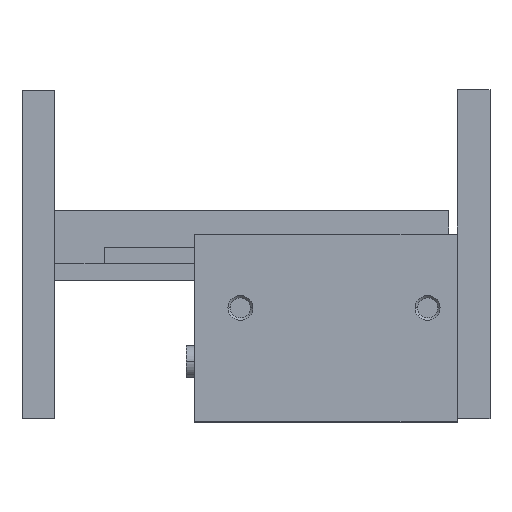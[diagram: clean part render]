
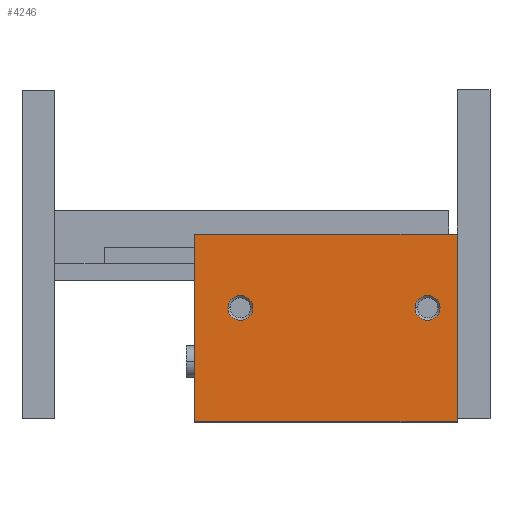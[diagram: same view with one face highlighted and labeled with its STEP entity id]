
A CAD part, top view. The second image highlights one B-rep face of the part: STEP entity #4246.
In plain terms, the highlighted planar face has unit normal (0, 0, 1) as drawn and (0, 0, -1) by its records, which use the part's own axes.
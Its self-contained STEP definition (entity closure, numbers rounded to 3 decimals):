
#53 = CIRCLE ( 'NONE', #7882, 2.413 ) ;
#84 = ORIENTED_EDGE ( 'NONE', *, *, #5181, .F. ) ;
#88 = AXIS2_PLACEMENT_3D ( 'NONE', #96, #5092, #806 ) ;
#96 = CARTESIAN_POINT ( 'NONE',  ( 41.91, 3.886, -13.487 ) ) ;
#142 = EDGE_CURVE ( 'NONE', #7717, #2907, #9205, .T. ) ;
#155 = EDGE_CURVE ( 'NONE', #2310, #6322, #160, .T. ) ;
#160 = LINE ( 'NONE', #1039, #3495 ) ;
#417 = FACE_OUTER_BOUND ( 'NONE', #1187, .T. ) ;
#490 = CIRCLE ( 'NONE', #9233, 2.413 ) ;
#647 = CARTESIAN_POINT ( 'NONE',  ( 50.8, -18.161, -13.487 ) ) ;
#656 = LINE ( 'NONE', #2612, #3990 ) ;
#806 = DIRECTION ( 'NONE',  ( 1., 0., 0. ) ) ;
#872 = ORIENTED_EDGE ( 'NONE', *, *, #8571, .T. ) ;
#1039 = CARTESIAN_POINT ( 'NONE',  ( 50.8, -18.161, -13.487 ) ) ;
#1093 = CARTESIAN_POINT ( 'NONE',  ( 41.91, 3.886, -13.487 ) ) ;
#1187 = EDGE_LOOP ( 'NONE', ( #8049, #1513, #84, #3926 ) ) ;
#1197 = VERTEX_POINT ( 'NONE', #8058 ) ;
#1513 = ORIENTED_EDGE ( 'NONE', *, *, #142, .F. ) ;
#1670 = DIRECTION ( 'NONE',  ( 0., 0., 1. ) ) ;
#1771 = CIRCLE ( 'NONE', #88, 2.413 ) ;
#1808 = CARTESIAN_POINT ( 'NONE',  ( 50.8, 18.161, -13.487 ) ) ;
#1813 = DIRECTION ( 'NONE',  ( 1., 0., 0. ) ) ;
#2058 = VECTOR ( 'NONE', #8820, 1000. ) ;
#2119 = CARTESIAN_POINT ( 'NONE',  ( 39.497, 3.886, -13.487 ) ) ;
#2167 = AXIS2_PLACEMENT_3D ( 'NONE', #647, #3497, #8497 ) ;
#2187 = EDGE_LOOP ( 'NONE', ( #2543, #872 ) ) ;
#2310 = VERTEX_POINT ( 'NONE', #7514 ) ;
#2543 = ORIENTED_EDGE ( 'NONE', *, *, #6583, .T. ) ;
#2555 = FACE_BOUND ( 'NONE', #7864, .T. ) ;
#2612 = CARTESIAN_POINT ( 'NONE',  ( 0., -18.161, -13.487 ) ) ;
#2907 = VERTEX_POINT ( 'NONE', #2935 ) ;
#2935 = CARTESIAN_POINT ( 'NONE',  ( 0., 18.161, -13.487 ) ) ;
#2965 = CARTESIAN_POINT ( 'NONE',  ( 44.323, 3.886, -13.487 ) ) ;
#2975 = LINE ( 'NONE', #6077, #8887 ) ;
#3192 = CARTESIAN_POINT ( 'NONE',  ( 50.8, 18.161, -13.487 ) ) ;
#3270 = DIRECTION ( 'NONE',  ( 0., 1., 0. ) ) ;
#3323 = VERTEX_POINT ( 'NONE', #2119 ) ;
#3407 = ORIENTED_EDGE ( 'NONE', *, *, #6034, .T. ) ;
#3495 = VECTOR ( 'NONE', #8784, 1000. ) ;
#3497 = DIRECTION ( 'NONE',  ( 0., 0., 1. ) ) ;
#3740 = CARTESIAN_POINT ( 'NONE',  ( 5.715, 3.886, -13.487 ) ) ;
#3743 = EDGE_CURVE ( 'NONE', #6322, #2907, #656, .T. ) ;
#3926 = ORIENTED_EDGE ( 'NONE', *, *, #155, .T. ) ;
#3990 = VECTOR ( 'NONE', #7626, 1000. ) ;
#4246 = ADVANCED_FACE ( 'NONE', ( #2555, #417, #6107 ), #5629, .F. ) ;
#4469 = DIRECTION ( 'NONE',  ( 1., 0., 0. ) ) ;
#4510 = CIRCLE ( 'NONE', #7337, 2.413 ) ;
#4783 = CARTESIAN_POINT ( 'NONE',  ( 0., -18.161, -13.487 ) ) ;
#4822 = VERTEX_POINT ( 'NONE', #6273 ) ;
#5092 = DIRECTION ( 'NONE',  ( 0., 0., 1. ) ) ;
#5181 = EDGE_CURVE ( 'NONE', #2310, #7717, #2975, .T. ) ;
#5629 = PLANE ( 'NONE',  #2167 ) ;
#5923 = CARTESIAN_POINT ( 'NONE',  ( 5.715, 3.886, -13.487 ) ) ;
#6034 = EDGE_CURVE ( 'NONE', #4822, #1197, #4510, .T. ) ;
#6066 = EDGE_CURVE ( 'NONE', #1197, #4822, #490, .T. ) ;
#6076 = DIRECTION ( 'NONE',  ( 0., 0., 1. ) ) ;
#6077 = CARTESIAN_POINT ( 'NONE',  ( 50.8, -18.161, -13.487 ) ) ;
#6107 = FACE_BOUND ( 'NONE', #2187, .T. ) ;
#6273 = CARTESIAN_POINT ( 'NONE',  ( 8.128, 3.886, -13.487 ) ) ;
#6322 = VERTEX_POINT ( 'NONE', #4783 ) ;
#6583 = EDGE_CURVE ( 'NONE', #3323, #7483, #1771, .T. ) ;
#6656 = DIRECTION ( 'NONE',  ( 1., 0., 0. ) ) ;
#7337 = AXIS2_PLACEMENT_3D ( 'NONE', #3740, #8741, #4469 ) ;
#7483 = VERTEX_POINT ( 'NONE', #2965 ) ;
#7514 = CARTESIAN_POINT ( 'NONE',  ( 50.8, -18.161, -13.487 ) ) ;
#7626 = DIRECTION ( 'NONE',  ( 0., 1., 0. ) ) ;
#7717 = VERTEX_POINT ( 'NONE', #1808 ) ;
#7864 = EDGE_LOOP ( 'NONE', ( #8062, #3407 ) ) ;
#7882 = AXIS2_PLACEMENT_3D ( 'NONE', #1093, #6076, #1813 ) ;
#8049 = ORIENTED_EDGE ( 'NONE', *, *, #3743, .T. ) ;
#8058 = CARTESIAN_POINT ( 'NONE',  ( 3.302, 3.886, -13.487 ) ) ;
#8062 = ORIENTED_EDGE ( 'NONE', *, *, #6066, .T. ) ;
#8497 = DIRECTION ( 'NONE',  ( 1., 0., 0. ) ) ;
#8571 = EDGE_CURVE ( 'NONE', #7483, #3323, #53, .T. ) ;
#8741 = DIRECTION ( 'NONE',  ( 0., 0., 1. ) ) ;
#8784 = DIRECTION ( 'NONE',  ( -1., 0., 0. ) ) ;
#8820 = DIRECTION ( 'NONE',  ( -1., 0., 0. ) ) ;
#8887 = VECTOR ( 'NONE', #3270, 1000. ) ;
#9205 = LINE ( 'NONE', #3192, #2058 ) ;
#9233 = AXIS2_PLACEMENT_3D ( 'NONE', #5923, #1670, #6656 ) ;
